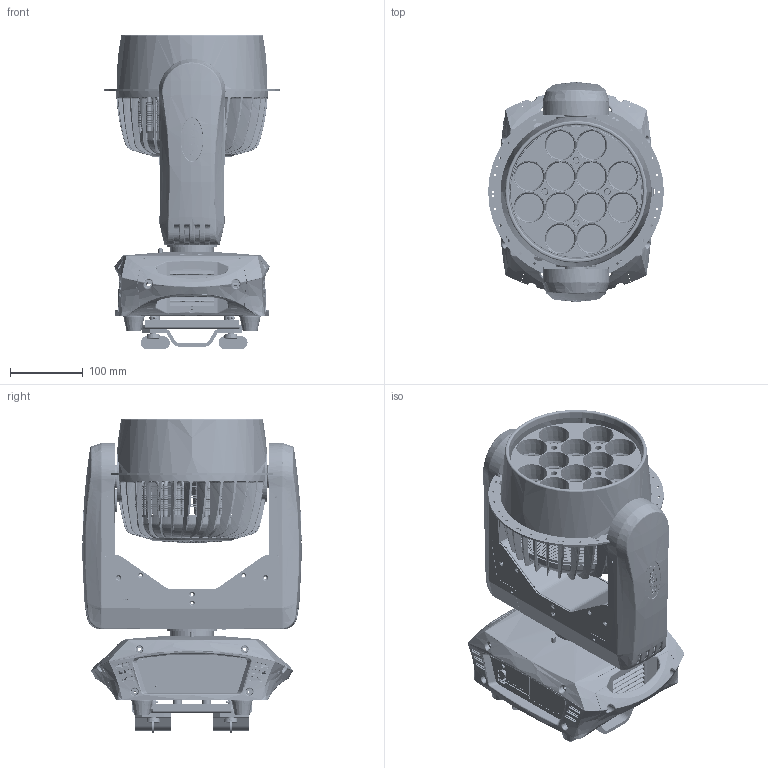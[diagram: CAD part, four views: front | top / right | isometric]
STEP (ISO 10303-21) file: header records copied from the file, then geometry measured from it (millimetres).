
FILE_DESCRIPTION((''),'2;1');
FILE_NAME('OV12QZ-ALL_ASM','2014-08-12T',('GC38'),(''),'PRO/ENGINEER BY PARAMETRIC TECHNOLOGY CORPORATION, 2009360','PRO/ENGINEER BY PARAMETRIC TECHNOLOGY CORPORATION, 2009360','');
FILE_SCHEMA(('CONFIG_CONTROL_DESIGN'));
Length unit declared in the file: millimetre
Products named in the file (184): OV12Q-01A-02; OV12Q-01A-07; LIB_LL_M10X80; OV315Z-01-02_A00_ASM; OV12Q-01A-06; LIB_LL_M10X88; OV315Z-01-01-00_ASM; OV12Q-01A-04; LIB_YZBXZ_XIAO; LIB_5T-3P15A-250V; LIB_LJ512-07H; LIB_J3F2C-B; LIB_K3F2C-B; LIB_C3-3A; LIB_LJ512-07H_A00_ASM; KAIGUAN_36; FEMALE_POWER_NEUTRIK; OV315Z-01-02-00_ASM; OV12Q-01A-03; OV12Q_DISPLAY_PCB; LIB-LJTZ_M5X6; OV315Z-01-03-00_ASM; Y-V160-01-14; LIB_JJ_D29X20; OV12Q-01A-01; 127X76X38; OV12Q-01A-12; OV12Q-01A-14; OV12Q-01A-15; OV12QPOWER_ASM; WS310-01A-05-01; Y-V160-01-13-2; WS310-01A-05-00_ASM; SGM-KSSS-BS; LIB_KSSS-01; LIB_KSSS-03; SGM-KSSS-BS_A00_ASM; LIB_KSSS-02; Y-V160-01-13_A00_ASM; OV315Z-01-00-00_ASM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
Assembly tree (367 placements, depth 7):
  OV12QZ-ALL_ASM
    OV12Q_BASE_ASM
      OV315Z-01-00-00_ASM
        OV315Z-01-01-00_ASM
          OV12Q-01A-02
          OV315Z-01-02_A00_ASM  x2
            OV12Q-01A-07
            LIB_LL_M10X80
          OV12Q-01A-06
          LIB_LL_M10X88  x4
        OV315Z-01-02-00_ASM
          OV12Q-01A-04
          LIB_YZBXZ_XIAO
          LIB_5T-3P15A-250V
          LIB_LJ512-07H_A00_ASM
            LIB_LJ512-07H
            LIB_J3F2C-B
            LIB_K3F2C-B
            LIB_C3-3A  x2
          KAIGUAN_36
          FEMALE_POWER_NEUTRIK  x2
        OV315Z-01-03-00_ASM
          OV12Q-01A-03
          OV12Q_DISPLAY_PCB
          LIB-LJTZ_M5X6  x4
        Y-V160-01-14  x4
        LIB_JJ_D29X20  x4
        OV12QPOWER_ASM
          OV12Q-01A-01
          127X76X38
          OV12Q-01A-12
          OV12Q-01A-14
          OV12Q-01A-15
        Y-V160-01-13_A00_ASM
          WS310-01A-05-00_ASM
            WS310-01A-05-01
            Y-V160-01-13-2  x4
          SGM-KSSS-BS_A00_ASM  x2
            SGM-KSSS-BS
            LIB_KSSS-01
            LIB_KSSS-03
          LIB_KSSS-02  x4
      OV315Z-02-00-00_ASM
        OV12Q-01A-08
        LIB_CTTZ_D6X14P5
        LIB_CT-D5X3_H
        OV12Q-01A-09
        OK12Q-01A-05  x2
        OV190Z-01A-09
        OV108-01A-15_A00_ASM
          OV190Z-01A-10
          LIB_ICR14430-2SIP
        LIB-LL-2S-M7X91  x4
        V160S-01B-00_ASM
          OV108-01B-02
          LIB_ZC-61906  x2
          V160S-01B-01
          OV108-01B-03
          V160S-01B-04
          V160S-01B-05
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Bounding box: 242 x 301.99 x 433 mm (x, y, z)
Volume: 4291024.4 mm3; surface area: 3807717.5 mm2
Topology: 543 solids, 549 shells, 26684 faces, 67637 edges, 42747 vertices
Faces by surface type: plane 10438, cylinder 9134, bspline 2732, torus 2382, cone 1508, sphere 304, extrusion 186
Entity records: 563619 total; most frequent: CARTESIAN_POINT 224101, ORIENTED_EDGE 71342, DIRECTION 69176, EDGE_CURVE 35671, AXIS2_PLACEMENT_3D 27190, VERTEX_POINT 22525, EDGE_LOOP 16810, CIRCLE 14807
